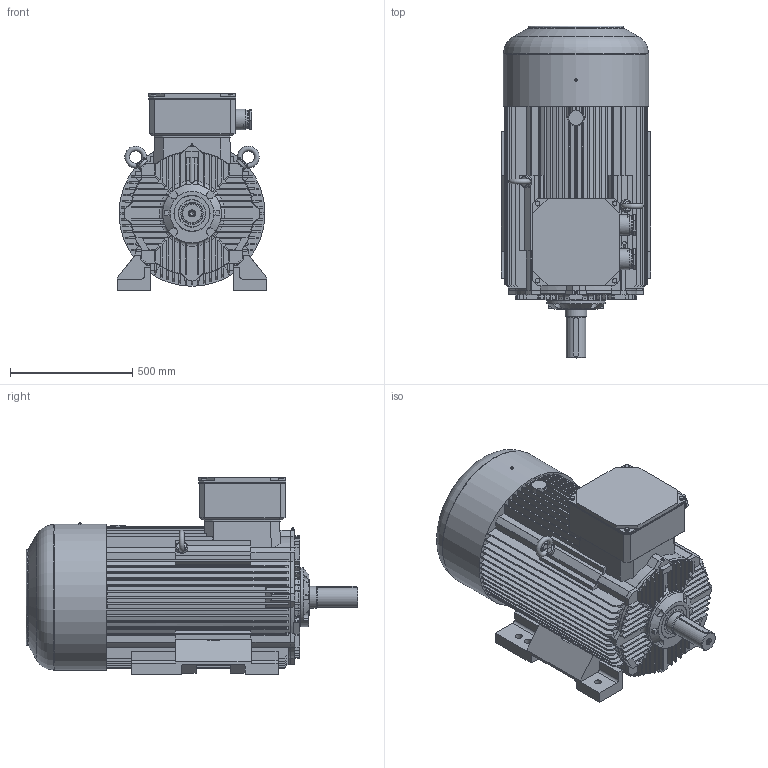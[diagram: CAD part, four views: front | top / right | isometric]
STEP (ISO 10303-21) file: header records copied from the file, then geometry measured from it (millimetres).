
FILE_DESCRIPTION( ( 'Unknown' ), '1' );
FILE_NAME( 'P:/3D_Bry³y silników skatalogowane/SIE/2SIE315/STP_2SIE315/2SIE315_M6B.stp', 'Unknown', ( 'Unknown' ), ( 'Unknown' ), 'XStep 1.0', 'Unknown', ' ' );
FILE_SCHEMA( ( 'CONFIG_CONTROL_DESIGN' ) );
Length unit declared in the file: millimetre
Products named in the file (6): 1; 2; 3; 4; 5; 6
Bounding box: 610.02 x 1355.11 x 804.5 mm (x, y, z)
Volume: 293636427.9 mm3; surface area: 6998173.4 mm2
Topology: 6 solids, 22 shells, 1480 faces, 4033 edges, 2652 vertices
Faces by surface type: plane 973, cylinder 307, cone 103, torus 81, bspline 16
Full cylindrical faces by diameter (mm): 1.6 x2, 5 x3, 10.106 x4, 13.835 x1, 16.63 x4, 17.294 x1, 20 x1, 21 x1, 24 x4, 28 x6, 50 x2, 55 x2, 57 x4, 65 x4, 70 x2, 71 x6, 72 x2, 72.752 x2, 76 x2, 79.999 x1, 85 x2, 89.5 x1, 90 x1, 99.4 x1, 100 x1, 111.399 x1, 112 x1, 119.4 x1, 119.999 x1, 131.399 x1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
Entity records: 55070 total; most frequent: CARTESIAN_POINT 18102, ORIENTED_EDGE 7710, DIRECTION 7395, EDGE_CURVE 3855, VERTEX_POINT 2607, AXIS2_PLACEMENT_3D 2469, LINE 2457, VECTOR 2457
